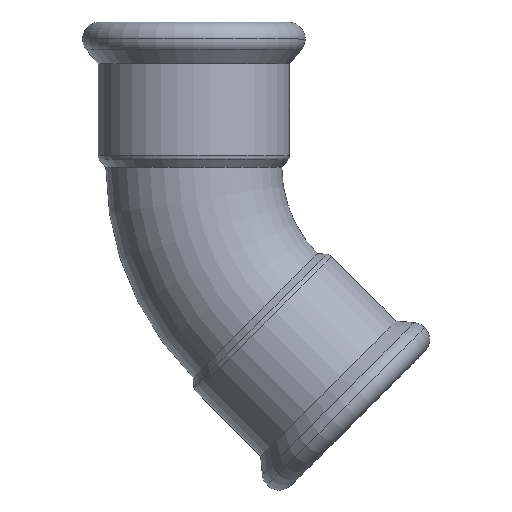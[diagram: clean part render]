
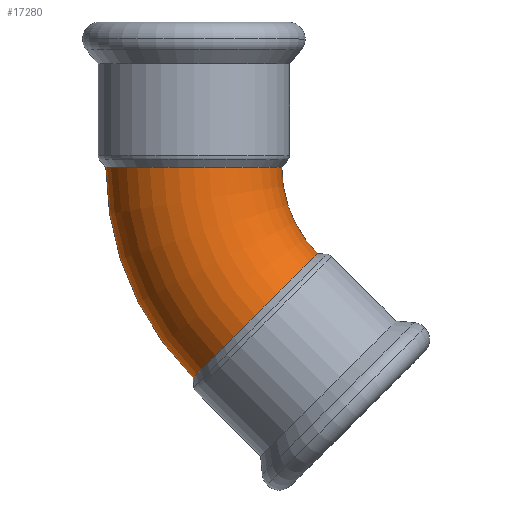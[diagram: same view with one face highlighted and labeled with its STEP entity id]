
A CAD part, top view. The second image highlights one B-rep face of the part: STEP entity #17280.
In plain terms, the highlighted toroidal (fillet/blend) face has major radius 42 mm and minor radius 17.594 mm.
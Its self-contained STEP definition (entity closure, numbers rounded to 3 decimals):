
#7920=CARTESIAN_POINT('',(-288.511,193.519,0.));
#7930=DIRECTION('',(0.,-1.,0.));
#7940=DIRECTION('',(1.,0.,0.));
#7950=AXIS2_PLACEMENT_3D('',#7920,#7930,#7940);
#7960=CIRCLE('',#7950,17.594);
#7970=CARTESIAN_POINT('',(-288.511,193.519,
17.594));
#7980=VERTEX_POINT('',#7970);
#7990=CARTESIAN_POINT('',(-306.106,193.519,
0.));
#8000=VERTEX_POINT('',#7990);
#8010=EDGE_CURVE('',#7980,#8000,#7960,.T.);
#8140=CARTESIAN_POINT('',(-270.917,193.519,0.));
#8150=VERTEX_POINT('',#8140);
#8180=EDGE_CURVE('',#8150,#7980,#7960,.T.);
#8320=CARTESIAN_POINT('',(-288.651,151.38,
0.));
#8330=VERTEX_POINT('',#8320);
#8410=CARTESIAN_POINT('',(-263.769,176.262,0.));
#8420=VERTEX_POINT('',#8410);
#8450=CARTESIAN_POINT('',(-276.21,163.821,0.));
#8460=DIRECTION('',(0.707,-0.707,0.));
#8470=DIRECTION('',(0.707,0.707,0.));
#8480=AXIS2_PLACEMENT_3D('',#8450,#8460,#8470);
#8490=CIRCLE('',#8480,17.594);
#14380=CARTESIAN_POINT('',(-246.511,193.519,0.));
#14390=DIRECTION('',(0.,0.,1.));
#14400=DIRECTION('',(-1.,0.,0.));
#14410=AXIS2_PLACEMENT_3D('',#14380,#14390,#14400);
#14420=TOROIDAL_SURFACE('',#14410,42.,17.594);
#14440=CARTESIAN_POINT('',(-246.511,193.519,0.));
#14450=DIRECTION('',(0.,0.,1.));
#14460=DIRECTION('',(-1.,0.,0.));
#14470=AXIS2_PLACEMENT_3D('',#14440,#14450,#14460);
#14480=CIRCLE('',#14470,24.406);
#14490=EDGE_CURVE('',#8150,#8420,#14480,.T.);
#14580=CARTESIAN_POINT('',(-246.511,193.519,
0.));
#14590=DIRECTION('',(0.,0.,1.));
#14600=DIRECTION('',(-1.,0.,0.));
#14610=AXIS2_PLACEMENT_3D('',#14580,#14590,#14600);
#14620=CIRCLE('',#14610,59.594);
#14630=EDGE_CURVE('',#8000,#8330,#14620,.T.);
#16440=EDGE_CURVE('',#8420,#8330,#8490,.T.);
#17210=ORIENTED_EDGE('',*,*,#14490,.F.);
#17220=ORIENTED_EDGE('',*,*,#16440,.F.);
#17230=ORIENTED_EDGE('',*,*,#14630,.T.);
#17240=ORIENTED_EDGE('',*,*,#8010,.T.);
#17250=ORIENTED_EDGE('',*,*,#8180,.T.);
#17260=EDGE_LOOP('',(#17250,#17240,#17230,#17220,#17210));
#17270=FACE_OUTER_BOUND('',#17260,.T.);
#17280=ADVANCED_FACE('',(#17270),#14420,.T.);
